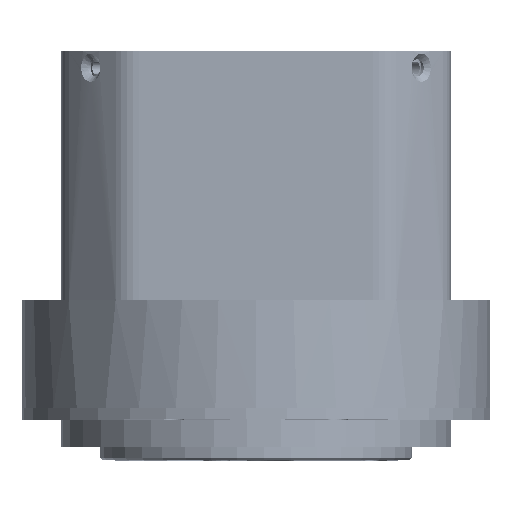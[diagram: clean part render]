
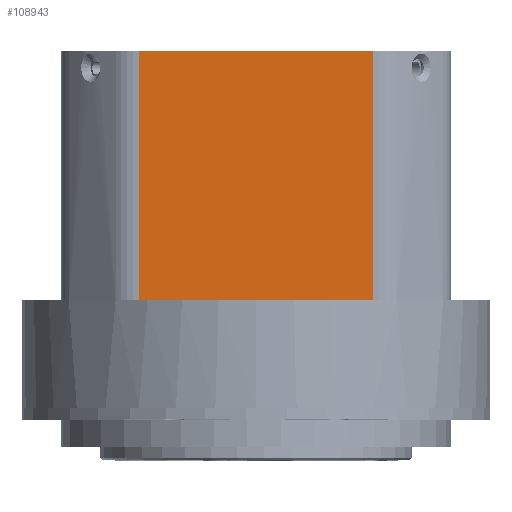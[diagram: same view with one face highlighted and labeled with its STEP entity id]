
A CAD part, top view. The second image highlights one B-rep face of the part: STEP entity #108943.
In plain terms, the highlighted planar face has unit normal (0, 0, 1).
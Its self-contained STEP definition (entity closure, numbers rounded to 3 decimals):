
#261 = DIRECTION ( 'NONE',  ( 1., 0., 0. ) ) ;
#18219 = EDGE_CURVE ( 'NONE', #105648, #258586, #350950, .T. ) ;
#26342 = DIRECTION ( 'NONE',  ( 1., 0., 0. ) ) ;
#66912 = CARTESIAN_POINT ( 'NONE',  ( -15., 1.5, 25. ) ) ;
#90783 = EDGE_LOOP ( 'NONE', ( #105053, #317582, #374633, #353381 ) ) ;
#99107 = CARTESIAN_POINT ( 'NONE',  ( 25., -84.201, 25. ) ) ;
#105053 = ORIENTED_EDGE ( 'NONE', *, *, #18219, .T. ) ;
#105648 = VERTEX_POINT ( 'NONE', #66912 ) ;
#106594 = VERTEX_POINT ( 'NONE', #185526 ) ;
#108943 = ADVANCED_FACE ( 'NONE', ( #501033 ), #528498, .T. ) ;
#114428 = CARTESIAN_POINT ( 'NONE',  ( -15., 1.5, 25. ) ) ;
#147675 = AXIS2_PLACEMENT_3D ( 'NONE', #99107, #333993, #261 ) ;
#185526 = CARTESIAN_POINT ( 'NONE',  ( 15., 33.4, 25. ) ) ;
#210532 = EDGE_CURVE ( 'NONE', #258586, #106594, #324445, .T. ) ;
#258586 = VERTEX_POINT ( 'NONE', #345709 ) ;
#317582 = ORIENTED_EDGE ( 'NONE', *, *, #210532, .T. ) ;
#324445 = LINE ( 'NONE', #503707, #559435 ) ;
#333993 = DIRECTION ( 'NONE',  ( 0., 0., 1. ) ) ;
#345709 = CARTESIAN_POINT ( 'NONE',  ( 15., 1.5, 25. ) ) ;
#350950 = LINE ( 'NONE', #545511, #409526 ) ;
#353381 = ORIENTED_EDGE ( 'NONE', *, *, #542434, .T. ) ;
#374633 = ORIENTED_EDGE ( 'NONE', *, *, #391151, .F. ) ;
#391151 = EDGE_CURVE ( 'NONE', #549630, #106594, #592537, .T. ) ;
#401647 = LINE ( 'NONE', #114428, #415244 ) ;
#409526 = VECTOR ( 'NONE', #26342, 1000. ) ;
#415244 = VECTOR ( 'NONE', #494317, 1000. ) ;
#417123 = DIRECTION ( 'NONE',  ( 0., 1., 0. ) ) ;
#494317 = DIRECTION ( 'NONE',  ( 0., -1., 0. ) ) ;
#501033 = FACE_OUTER_BOUND ( 'NONE', #90783, .T. ) ;
#503707 = CARTESIAN_POINT ( 'NONE',  ( 15., 33.4, 25. ) ) ;
#528498 = PLANE ( 'NONE',  #147675 ) ;
#542434 = EDGE_CURVE ( 'NONE', #549630, #105648, #401647, .T. ) ;
#543142 = CARTESIAN_POINT ( 'NONE',  ( 25., 33.4, 25. ) ) ;
#545511 = CARTESIAN_POINT ( 'NONE',  ( 25., 1.5, 25. ) ) ;
#549630 = VERTEX_POINT ( 'NONE', #604262 ) ;
#559435 = VECTOR ( 'NONE', #417123, 1000. ) ;
#589491 = DIRECTION ( 'NONE',  ( 1., 0., 0. ) ) ;
#592537 = LINE ( 'NONE', #543142, #592894 ) ;
#592894 = VECTOR ( 'NONE', #589491, 1000. ) ;
#604262 = CARTESIAN_POINT ( 'NONE',  ( -15., 33.4, 25. ) ) ;
